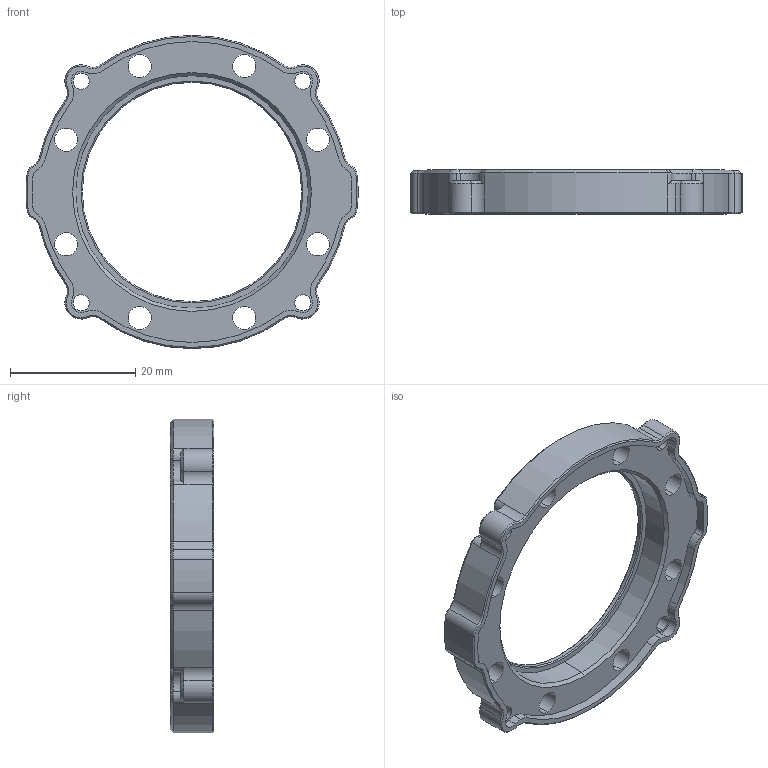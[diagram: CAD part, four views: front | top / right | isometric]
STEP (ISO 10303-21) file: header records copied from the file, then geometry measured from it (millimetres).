
FILE_DESCRIPTION (( 'STEP AP203' ), '1' );
FILE_NAME ('奻裔2.STEP', '2025-02-25T05:09:55', ( '' ), ( '' ), 'SwSTEP 2.0', 'SolidWorks 2020', '' );
FILE_SCHEMA (( 'CONFIG_CONTROL_DESIGN' ));
Length unit declared in the file: millimetre
Products named in the file (1): 奻裔2
Bounding box: 52.97 x 7 x 50 mm (x, y, z)
Volume: 4857.2 mm3; surface area: 4478.9 mm2
Topology: 1 solids, 1 shells, 222 faces, 553 edges, 335 vertices
Faces by surface type: cylinder 110, cone 104, plane 8
Entity records: 6813 total; most frequent: DIRECTION 1322, CARTESIAN_POINT 1151, ORIENTED_EDGE 1106, AXIS2_PLACEMENT_3D 554, EDGE_CURVE 553, VERTEX_POINT 335, CIRCLE 331, EDGE_LOOP 250
